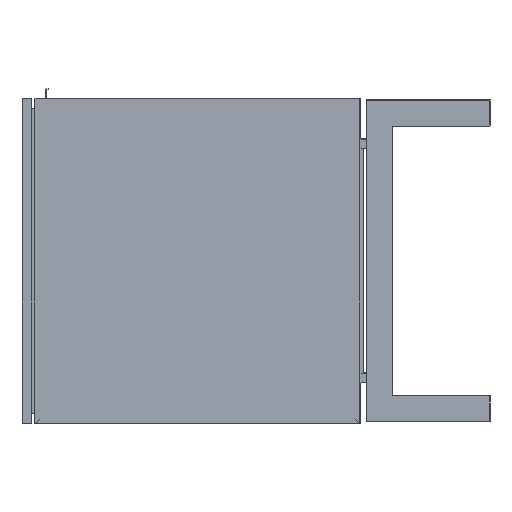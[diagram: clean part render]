
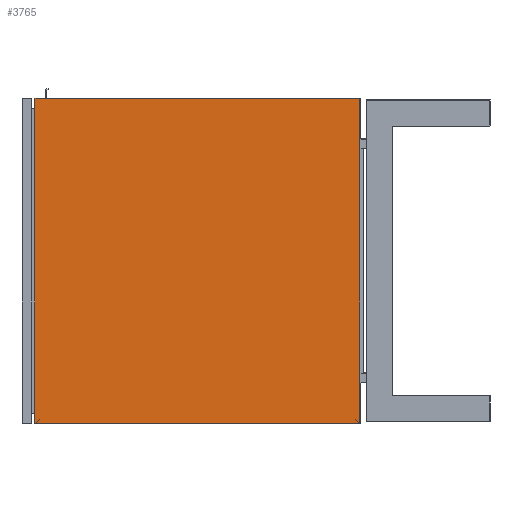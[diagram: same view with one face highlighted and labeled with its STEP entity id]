
A CAD part, left-side view. The second image highlights one B-rep face of the part: STEP entity #3765.
In plain terms, the highlighted planar face has unit normal (-1, 0, 0).
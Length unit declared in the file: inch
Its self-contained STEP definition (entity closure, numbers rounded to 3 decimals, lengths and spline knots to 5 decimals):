
#629=FACE_OUTER_BOUND('',#815,.T.);
#815=EDGE_LOOP('',(#2675,#2676,#2677,#2678));
#1006=LINE('',#5271,#1452);
#1010=LINE('',#5280,#1456);
#1013=LINE('',#5285,#1459);
#1014=LINE('',#5287,#1460);
#1452=VECTOR('',#4364,0.3937);
#1456=VECTOR('',#4372,0.3937);
#1459=VECTOR('',#4377,0.3937);
#1460=VECTOR('',#4380,0.3937);
#1895=VERTEX_POINT('',#5264);
#1898=VERTEX_POINT('',#5269);
#1901=VERTEX_POINT('',#5279);
#1902=VERTEX_POINT('',#5283);
#2200=EDGE_CURVE('',#1895,#1898,#1006,.T.);
#2204=EDGE_CURVE('',#1895,#1901,#1010,.T.);
#2207=EDGE_CURVE('',#1898,#1902,#1013,.T.);
#2208=EDGE_CURVE('',#1901,#1902,#1014,.T.);
#2675=ORIENTED_EDGE('',*,*,#2200,.T.);
#2676=ORIENTED_EDGE('',*,*,#2207,.T.);
#2677=ORIENTED_EDGE('',*,*,#2208,.F.);
#2678=ORIENTED_EDGE('',*,*,#2204,.F.);
#3587=PLANE('',#4131);
#3765=ADVANCED_FACE('',(#629),#3587,.T.);
#4131=AXIS2_PLACEMENT_3D('',#5286,#4378,#4379);
#4364=DIRECTION('',(0.,-1.,0.));
#4372=DIRECTION('',(0.,0.,1.));
#4377=DIRECTION('',(0.,0.,1.));
#4378=DIRECTION('center_axis',(-1.,0.,0.));
#4379=DIRECTION('ref_axis',(0.,-1.,0.));
#4380=DIRECTION('',(0.,-1.,0.));
#5264=CARTESIAN_POINT('',(0.,25.,0.));
#5269=CARTESIAN_POINT('',(0.,0.,0.));
#5271=CARTESIAN_POINT('',(0.,25.,0.));
#5279=CARTESIAN_POINT('',(0.,25.,25.));
#5280=CARTESIAN_POINT('',(0.,25.,0.));
#5283=CARTESIAN_POINT('',(0.,0.,25.));
#5285=CARTESIAN_POINT('',(0.,0.,0.));
#5286=CARTESIAN_POINT('Origin',(0.,25.,0.));
#5287=CARTESIAN_POINT('',(0.,25.,25.));
